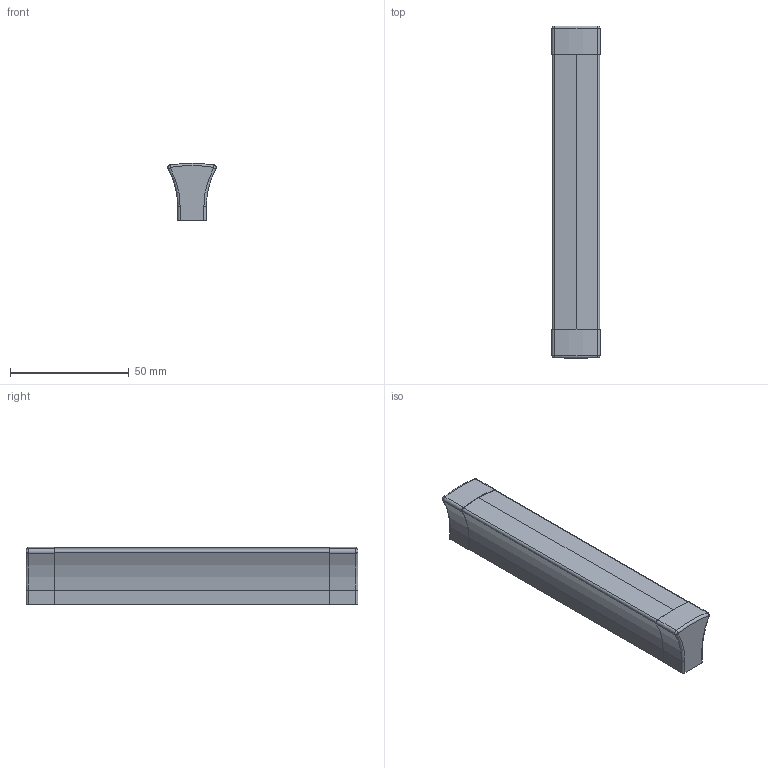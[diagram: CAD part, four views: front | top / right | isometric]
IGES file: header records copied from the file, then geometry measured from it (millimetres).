
Start section: C
Global section: file name: 8147-138.igs; native system: By Siemens PLM Incorporated; preprocessor: XPlus GENERIC/IGES 16.0.42; author: Author; organization: Title; date: 20231126.124120; units: millimetre
Bounding box: 20.39 x 140 x 24.12 mm (x, y, z)
Surface area: 25604.6 mm2 (no closed solid volume)
Topology: 0 solids, 0 shells, 148 faces, 780 edges, 780 vertices
Faces by surface type: bspline 148
